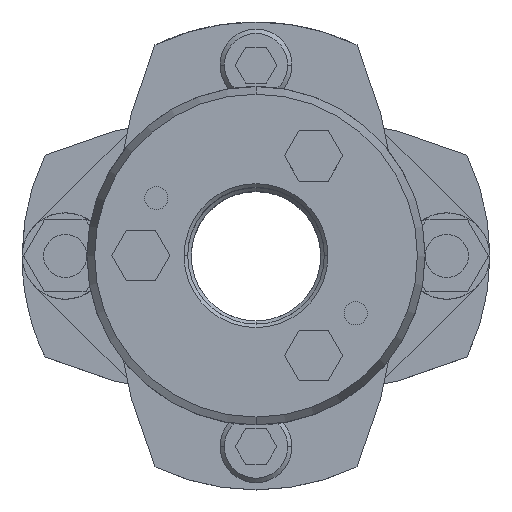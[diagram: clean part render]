
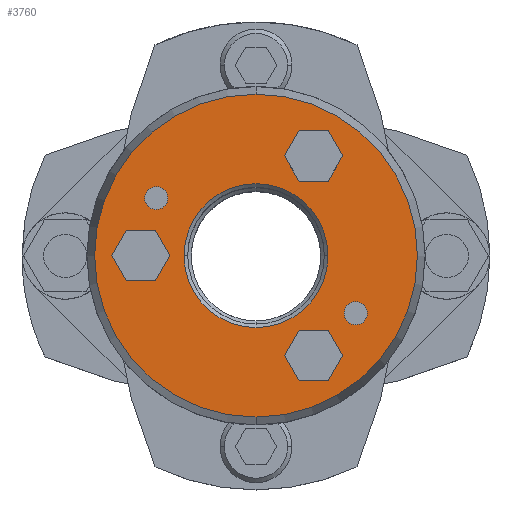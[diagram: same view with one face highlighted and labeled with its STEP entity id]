
A CAD part, top view. The second image highlights one B-rep face of the part: STEP entity #3760.
In plain terms, the highlighted planar face has unit normal (0, 0, 1).
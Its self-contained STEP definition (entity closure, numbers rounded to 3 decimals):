
#1462=CARTESIAN_POINT('',(0.,-22.428,30.75));
#1463=VERTEX_POINT('',#1462);
#1472=CARTESIAN_POINT('',(0.0,22.428,30.75));
#1473=VERTEX_POINT('',#1472);
#1474=CARTESIAN_POINT('',(0.0,0.,30.75));
#1475=DIRECTION('',(0.0,0.0,-1.0));
#1476=DIRECTION('',(0.0,-1.0,0.0));
#1477=AXIS2_PLACEMENT_3D('',#1474,#1475,#1476);
#1478=CIRCLE('',#1477,22.428);
#1479=EDGE_CURVE('',#1463,#1473,#1478,.T.);
#1506=CARTESIAN_POINT('',(-10.,0.,30.75));
#1507=VERTEX_POINT('',#1506);
#1523=CARTESIAN_POINT('',(10.,0.,30.75));
#1524=VERTEX_POINT('',#1523);
#1531=CARTESIAN_POINT('',(0.,0.,30.75));
#1532=DIRECTION('',(0.0,0.0,1.0));
#1533=DIRECTION('',(-1.0,0.0,0.0));
#1534=AXIS2_PLACEMENT_3D('',#1531,#1532,#1533);
#1535=CIRCLE('',#1534,10.0);
#1536=EDGE_CURVE('',#1524,#1507,#1535,.T.);
#1944=CARTESIAN_POINT('',(-15.456,8.,30.75));
#1945=VERTEX_POINT('',#1944);
#1961=CARTESIAN_POINT('',(-12.256,8.,30.75));
#1962=VERTEX_POINT('',#1961);
#1969=CARTESIAN_POINT('',(-13.856,8.,30.75));
#1970=DIRECTION('',(0.0,0.0,-1.0));
#1971=DIRECTION('',(-1.0,0.0,0.0));
#1972=AXIS2_PLACEMENT_3D('',#1969,#1970,#1971);
#1973=CIRCLE('',#1972,1.6);
#1974=EDGE_CURVE('',#1945,#1962,#1973,.T.);
#1986=CARTESIAN_POINT('',(12.256,-8.,30.75));
#1987=VERTEX_POINT('',#1986);
#2003=CARTESIAN_POINT('',(15.456,-8.,30.75));
#2004=VERTEX_POINT('',#2003);
#2011=CARTESIAN_POINT('',(13.856,-8.,30.75));
#2012=DIRECTION('',(0.0,0.0,-1.0));
#2013=DIRECTION('',(-1.0,0.0,0.0));
#2014=AXIS2_PLACEMENT_3D('',#2011,#2012,#2013);
#2015=CIRCLE('',#2014,1.6);
#2016=EDGE_CURVE('',#1987,#2004,#2015,.T.);
#2122=CARTESIAN_POINT('',(-20.041,0.,30.75));
#2123=VERTEX_POINT('',#2122);
#2130=CARTESIAN_POINT('',(-18.021,-3.5,30.75));
#2131=VERTEX_POINT('',#2130);
#2132=CARTESIAN_POINT('',(-18.021,-3.5,30.75));
#2133=DIRECTION('',(-0.5,0.866,0.0));
#2134=VECTOR('',#2133,4.041);
#2135=LINE('',#2132,#2134);
#2136=EDGE_CURVE('',#2131,#2123,#2135,.T.);
#2160=CARTESIAN_POINT('',(-18.021,3.5,30.75));
#2161=VERTEX_POINT('',#2160);
#2168=CARTESIAN_POINT('',(-20.041,0.,30.75));
#2169=DIRECTION('',(0.5,0.866,0.0));
#2170=VECTOR('',#2169,4.041);
#2171=LINE('',#2168,#2170);
#2172=EDGE_CURVE('',#2123,#2161,#2171,.T.);
#2191=CARTESIAN_POINT('',(-13.979,3.5,30.75));
#2192=VERTEX_POINT('',#2191);
#2199=CARTESIAN_POINT('',(-18.021,3.5,30.75));
#2200=DIRECTION('',(1.0,0.0,0.0));
#2201=VECTOR('',#2200,4.041);
#2202=LINE('',#2199,#2201);
#2203=EDGE_CURVE('',#2161,#2192,#2202,.T.);
#2222=CARTESIAN_POINT('',(-11.959,0.,30.75));
#2223=VERTEX_POINT('',#2222);
#2230=CARTESIAN_POINT('',(-13.979,3.5,30.75));
#2231=DIRECTION('',(0.5,-0.866,0.0));
#2232=VECTOR('',#2231,4.041);
#2233=LINE('',#2230,#2232);
#2234=EDGE_CURVE('',#2192,#2223,#2233,.T.);
#2253=CARTESIAN_POINT('',(-13.979,-3.5,30.75));
#2254=VERTEX_POINT('',#2253);
#2261=CARTESIAN_POINT('',(-11.959,0.,30.75));
#2262=DIRECTION('',(-0.5,-0.866,0.0));
#2263=VECTOR('',#2262,4.041);
#2264=LINE('',#2261,#2263);
#2265=EDGE_CURVE('',#2223,#2254,#2264,.T.);
#2283=CARTESIAN_POINT('',(-13.979,-3.5,30.75));
#2284=DIRECTION('',(-1.0,0.0,0.0));
#2285=VECTOR('',#2284,4.041);
#2286=LINE('',#2283,#2285);
#2287=EDGE_CURVE('',#2254,#2131,#2286,.T.);
#2322=CARTESIAN_POINT('',(3.959,13.856,30.75));
#2323=VERTEX_POINT('',#2322);
#2330=CARTESIAN_POINT('',(5.979,10.356,30.75));
#2331=VERTEX_POINT('',#2330);
#2332=CARTESIAN_POINT('',(5.979,10.356,30.75));
#2333=DIRECTION('',(-0.5,0.866,0.0));
#2334=VECTOR('',#2333,4.041);
#2335=LINE('',#2332,#2334);
#2336=EDGE_CURVE('',#2331,#2323,#2335,.T.);
#2360=CARTESIAN_POINT('',(5.979,17.356,30.75));
#2361=VERTEX_POINT('',#2360);
#2368=CARTESIAN_POINT('',(3.959,13.856,30.75));
#2369=DIRECTION('',(0.5,0.866,0.0));
#2370=VECTOR('',#2369,4.041);
#2371=LINE('',#2368,#2370);
#2372=EDGE_CURVE('',#2323,#2361,#2371,.T.);
#2391=CARTESIAN_POINT('',(10.021,17.356,30.75));
#2392=VERTEX_POINT('',#2391);
#2399=CARTESIAN_POINT('',(5.979,17.356,30.75));
#2400=DIRECTION('',(1.0,0.0,0.0));
#2401=VECTOR('',#2400,4.041);
#2402=LINE('',#2399,#2401);
#2403=EDGE_CURVE('',#2361,#2392,#2402,.T.);
#2422=CARTESIAN_POINT('',(12.041,13.856,30.75));
#2423=VERTEX_POINT('',#2422);
#2430=CARTESIAN_POINT('',(10.021,17.356,30.75));
#2431=DIRECTION('',(0.5,-0.866,0.0));
#2432=VECTOR('',#2431,4.041);
#2433=LINE('',#2430,#2432);
#2434=EDGE_CURVE('',#2392,#2423,#2433,.T.);
#2453=CARTESIAN_POINT('',(10.021,10.356,30.75));
#2454=VERTEX_POINT('',#2453);
#2461=CARTESIAN_POINT('',(12.041,13.856,30.75));
#2462=DIRECTION('',(-0.5,-0.866,0.0));
#2463=VECTOR('',#2462,4.041);
#2464=LINE('',#2461,#2463);
#2465=EDGE_CURVE('',#2423,#2454,#2464,.T.);
#2483=CARTESIAN_POINT('',(10.021,10.356,30.75));
#2484=DIRECTION('',(-1.0,0.0,0.0));
#2485=VECTOR('',#2484,4.041);
#2486=LINE('',#2483,#2485);
#2487=EDGE_CURVE('',#2454,#2331,#2486,.T.);
#2522=CARTESIAN_POINT('',(3.959,-13.856,30.75));
#2523=VERTEX_POINT('',#2522);
#2530=CARTESIAN_POINT('',(5.979,-17.356,30.75));
#2531=VERTEX_POINT('',#2530);
#2532=CARTESIAN_POINT('',(5.979,-17.356,30.75));
#2533=DIRECTION('',(-0.5,0.866,0.0));
#2534=VECTOR('',#2533,4.041);
#2535=LINE('',#2532,#2534);
#2536=EDGE_CURVE('',#2531,#2523,#2535,.T.);
#2560=CARTESIAN_POINT('',(5.979,-10.356,30.75));
#2561=VERTEX_POINT('',#2560);
#2568=CARTESIAN_POINT('',(3.959,-13.856,30.75));
#2569=DIRECTION('',(0.5,0.866,0.0));
#2570=VECTOR('',#2569,4.041);
#2571=LINE('',#2568,#2570);
#2572=EDGE_CURVE('',#2523,#2561,#2571,.T.);
#2591=CARTESIAN_POINT('',(10.021,-10.356,30.75));
#2592=VERTEX_POINT('',#2591);
#2599=CARTESIAN_POINT('',(5.979,-10.356,30.75));
#2600=DIRECTION('',(1.0,0.0,0.0));
#2601=VECTOR('',#2600,4.041);
#2602=LINE('',#2599,#2601);
#2603=EDGE_CURVE('',#2561,#2592,#2602,.T.);
#2622=CARTESIAN_POINT('',(12.041,-13.856,30.75));
#2623=VERTEX_POINT('',#2622);
#2630=CARTESIAN_POINT('',(10.021,-10.356,30.75));
#2631=DIRECTION('',(0.5,-0.866,0.0));
#2632=VECTOR('',#2631,4.041);
#2633=LINE('',#2630,#2632);
#2634=EDGE_CURVE('',#2592,#2623,#2633,.T.);
#2653=CARTESIAN_POINT('',(10.021,-17.356,30.75));
#2654=VERTEX_POINT('',#2653);
#2661=CARTESIAN_POINT('',(12.041,-13.856,30.75));
#2662=DIRECTION('',(-0.5,-0.866,0.0));
#2663=VECTOR('',#2662,4.041);
#2664=LINE('',#2661,#2663);
#2665=EDGE_CURVE('',#2623,#2654,#2664,.T.);
#2683=CARTESIAN_POINT('',(10.021,-17.356,30.75));
#2684=DIRECTION('',(-1.0,0.0,0.0));
#2685=VECTOR('',#2684,4.041);
#2686=LINE('',#2683,#2685);
#2687=EDGE_CURVE('',#2654,#2531,#2686,.T.);
#2713=CARTESIAN_POINT('',(13.856,-8.,30.75));
#2714=DIRECTION('',(0.0,0.0,-1.0));
#2715=DIRECTION('',(-1.0,0.0,0.0));
#2716=AXIS2_PLACEMENT_3D('',#2713,#2714,#2715);
#2717=CIRCLE('',#2716,1.6);
#2718=EDGE_CURVE('',#2004,#1987,#2717,.T.);
#2747=CARTESIAN_POINT('',(-13.856,8.,30.75));
#2748=DIRECTION('',(0.0,0.0,-1.0));
#2749=DIRECTION('',(-1.0,0.0,0.0));
#2750=AXIS2_PLACEMENT_3D('',#2747,#2748,#2749);
#2751=CIRCLE('',#2750,1.6);
#2752=EDGE_CURVE('',#1962,#1945,#2751,.T.);
#3697=CARTESIAN_POINT('',(0.,0.,30.75));
#3698=DIRECTION('',(0.0,0.0,1.0));
#3699=DIRECTION('',(-1.0,0.0,0.0));
#3700=AXIS2_PLACEMENT_3D('',#3697,#3698,#3699);
#3701=CIRCLE('',#3700,10.0);
#3702=EDGE_CURVE('',#1507,#1524,#3701,.T.);
#3709=CARTESIAN_POINT('',(0.,-9.964,30.75));
#3710=DIRECTION('',(0.0,0.0,1.0));
#3711=DIRECTION('',(-1.0,0.0,0.0));
#3712=AXIS2_PLACEMENT_3D('',#3709,#3710,#3711);
#3713=PLANE('',#3712);
#3714=ORIENTED_EDGE('',*,*,#1479,.F.);
#3715=CARTESIAN_POINT('',(0.0,0.,30.75));
#3716=DIRECTION('',(0.0,0.0,-1.0));
#3717=DIRECTION('',(0.0,-1.0,0.0));
#3718=AXIS2_PLACEMENT_3D('',#3715,#3716,#3717);
#3719=CIRCLE('',#3718,22.428);
#3720=EDGE_CURVE('',#1473,#1463,#3719,.T.);
#3721=ORIENTED_EDGE('',*,*,#3720,.F.);
#3722=EDGE_LOOP('',(#3714,#3721));
#3723=FACE_OUTER_BOUND('',#3722,.T.);
#3724=ORIENTED_EDGE('',*,*,#2136,.T.);
#3725=ORIENTED_EDGE('',*,*,#2172,.T.);
#3726=ORIENTED_EDGE('',*,*,#2203,.T.);
#3727=ORIENTED_EDGE('',*,*,#2234,.T.);
#3728=ORIENTED_EDGE('',*,*,#2265,.T.);
#3729=ORIENTED_EDGE('',*,*,#2287,.T.);
#3730=EDGE_LOOP('',(#3724,#3725,#3726,#3727,#3728,#3729));
#3731=FACE_BOUND('',#3730,.T.);
#3732=ORIENTED_EDGE('',*,*,#2336,.T.);
#3733=ORIENTED_EDGE('',*,*,#2372,.T.);
#3734=ORIENTED_EDGE('',*,*,#2403,.T.);
#3735=ORIENTED_EDGE('',*,*,#2434,.T.);
#3736=ORIENTED_EDGE('',*,*,#2465,.T.);
#3737=ORIENTED_EDGE('',*,*,#2487,.T.);
#3738=EDGE_LOOP('',(#3732,#3733,#3734,#3735,#3736,#3737));
#3739=FACE_BOUND('',#3738,.T.);
#3740=ORIENTED_EDGE('',*,*,#2536,.T.);
#3741=ORIENTED_EDGE('',*,*,#2572,.T.);
#3742=ORIENTED_EDGE('',*,*,#2603,.T.);
#3743=ORIENTED_EDGE('',*,*,#2634,.T.);
#3744=ORIENTED_EDGE('',*,*,#2665,.T.);
#3745=ORIENTED_EDGE('',*,*,#2687,.T.);
#3746=EDGE_LOOP('',(#3740,#3741,#3742,#3743,#3744,#3745));
#3747=FACE_BOUND('',#3746,.T.);
#3748=ORIENTED_EDGE('',*,*,#2016,.T.);
#3749=ORIENTED_EDGE('',*,*,#2718,.T.);
#3750=EDGE_LOOP('',(#3748,#3749));
#3751=FACE_BOUND('',#3750,.T.);
#3752=ORIENTED_EDGE('',*,*,#1974,.T.);
#3753=ORIENTED_EDGE('',*,*,#2752,.T.);
#3754=EDGE_LOOP('',(#3752,#3753));
#3755=FACE_BOUND('',#3754,.T.);
#3756=ORIENTED_EDGE('',*,*,#1536,.F.);
#3757=ORIENTED_EDGE('',*,*,#3702,.F.);
#3758=EDGE_LOOP('',(#3756,#3757));
#3759=FACE_BOUND('',#3758,.T.);
#3760=ADVANCED_FACE('',(#3723,#3731,#3739,#3747,#3751,#3755,#3759),#3713,.T.);
